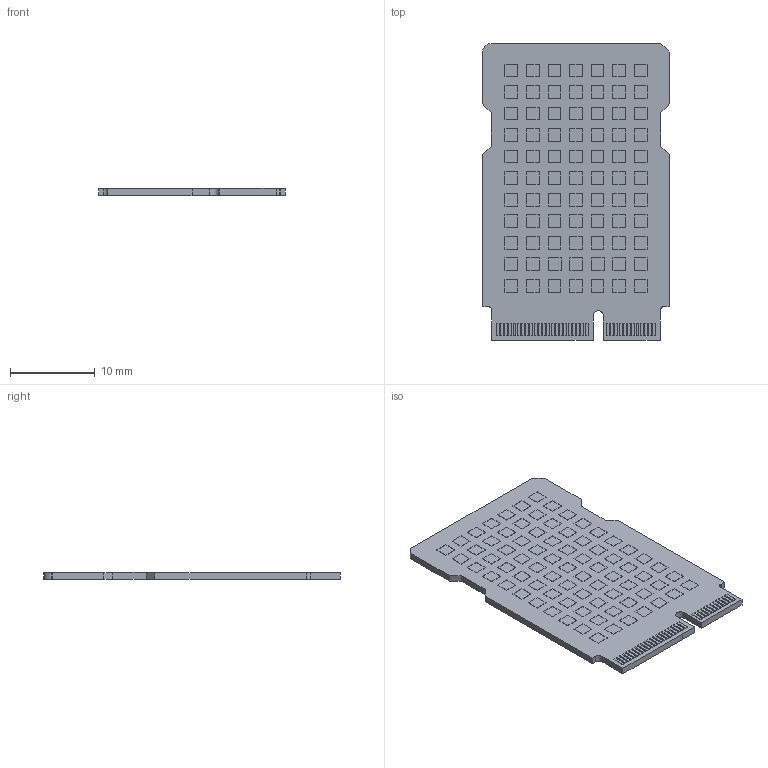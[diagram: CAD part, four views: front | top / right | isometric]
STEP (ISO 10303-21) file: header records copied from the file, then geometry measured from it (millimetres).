
FILE_DESCRIPTION(('KiCad electronic assembly'),'2;1');
FILE_NAME('CL-32-PLUS.step','2025-01-06T21:48:54',('Pcbnew'),('Kicad'), 'Open CASCADE STEP processor 7.8','KiCad to STEP converter','Unknown' );
FILE_SCHEMA(('AUTOMOTIVE_DESIGN { 1 0 10303 214 1 1 1 1 }'));
Length unit declared in the file: millimetre
Products named in the file (146): CL-32-PLUS 1; CL-32-PLUS_pad_1; CL-32-PLUS_pad_2; CL-32-PLUS_pad_3; CL-32-PLUS_pad_4; CL-32-PLUS_pad_5; CL-32-PLUS_pad_6; CL-32-PLUS_pad_7; CL-32-PLUS_pad_8; CL-32-PLUS_pad_9; CL-32-PLUS_pad_10; CL-32-PLUS_pad_11; CL-32-PLUS_pad_12; CL-32-PLUS_pad_13; CL-32-PLUS_pad_14; CL-32-PLUS_pad_15; CL-32-PLUS_pad_16; CL-32-PLUS_pad_17; CL-32-PLUS_pad_18; CL-32-PLUS_pad_19; CL-32-PLUS_pad_20; CL-32-PLUS_pad_21; CL-32-PLUS_pad_22; CL-32-PLUS_pad_23; CL-32-PLUS_pad_24; CL-32-PLUS_pad_25; CL-32-PLUS_pad_26; CL-32-PLUS_pad_27; CL-32-PLUS_pad_28; CL-32-PLUS_pad_29; CL-32-PLUS_pad_30; CL-32-PLUS_pad_31; CL-32-PLUS_pad_32; CL-32-PLUS_pad_33; CL-32-PLUS_pad_34; CL-32-PLUS_pad_35; CL-32-PLUS_pad_36; CL-32-PLUS_pad_37; CL-32-PLUS_pad_38; CL-32-PLUS_pad_39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
Assembly tree (145 placements, depth 2):
  CL-32-PLUS 1
    CL-32-PLUS_pad_1
    CL-32-PLUS_pad_2
    CL-32-PLUS_pad_3
    CL-32-PLUS_pad_4
    CL-32-PLUS_pad_5
    CL-32-PLUS_pad_6
    CL-32-PLUS_pad_7
    CL-32-PLUS_pad_8
    CL-32-PLUS_pad_9
    CL-32-PLUS_pad_10
    CL-32-PLUS_pad_11
    CL-32-PLUS_pad_12
    CL-32-PLUS_pad_13
    CL-32-PLUS_pad_14
    CL-32-PLUS_pad_15
    CL-32-PLUS_pad_16
    CL-32-PLUS_pad_17
    CL-32-PLUS_pad_18
    CL-32-PLUS_pad_19
    CL-32-PLUS_pad_20
    CL-32-PLUS_pad_21
    CL-32-PLUS_pad_22
    CL-32-PLUS_pad_23
    CL-32-PLUS_pad_24
    CL-32-PLUS_pad_25
    CL-32-PLUS_pad_26
    CL-32-PLUS_pad_27
    CL-32-PLUS_pad_28
    CL-32-PLUS_pad_29
    CL-32-PLUS_pad_30
    CL-32-PLUS_pad_31
    CL-32-PLUS_pad_32
    CL-32-PLUS_pad_33
    CL-32-PLUS_pad_34
    CL-32-PLUS_pad_35
    CL-32-PLUS_pad_36
    CL-32-PLUS_pad_37
    CL-32-PLUS_pad_38
    CL-32-PLUS_pad_39
    CL-32-PLUS_pad_40
    CL-32-PLUS_pad_41
    CL-32-PLUS_pad_42
    CL-32-PLUS_pad_43
    CL-32-PLUS_pad_44
    CL-32-PLUS_pad_45
    CL-32-PLUS_pad_46
    CL-32-PLUS_pad_47
    CL-32-PLUS_pad_48
    CL-32-PLUS_pad_49
    CL-32-PLUS_pad_50
    CL-32-PLUS_pad_51
    CL-32-PLUS_pad_52
    CL-32-PLUS_pad_53
    CL-32-PLUS_pad_54
    CL-32-PLUS_pad_55
    CL-32-PLUS_pad_56
    CL-32-PLUS_pad_57
    CL-32-PLUS_pad_58
    CL-32-PLUS_pad_59
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Bounding box: 22 x 35 x 0.87 mm (x, y, z)
Volume: 604.9 mm3; surface area: 2041.9 mm2
Topology: 145 solids, 145 shells, 895 faces, 1815 edges, 1210 vertices
Faces by surface type: plane 891, cylinder 4
Entity records: 26371 total; most frequent: CARTESIAN_POINT 4066, DIRECTION 3905, ORIENTED_EDGE 3630, EDGE_CURVE 1815, LINE 1807, VECTOR 1807, VERTEX_POINT 1210, AXIS2_PLACEMENT_3D 1049
